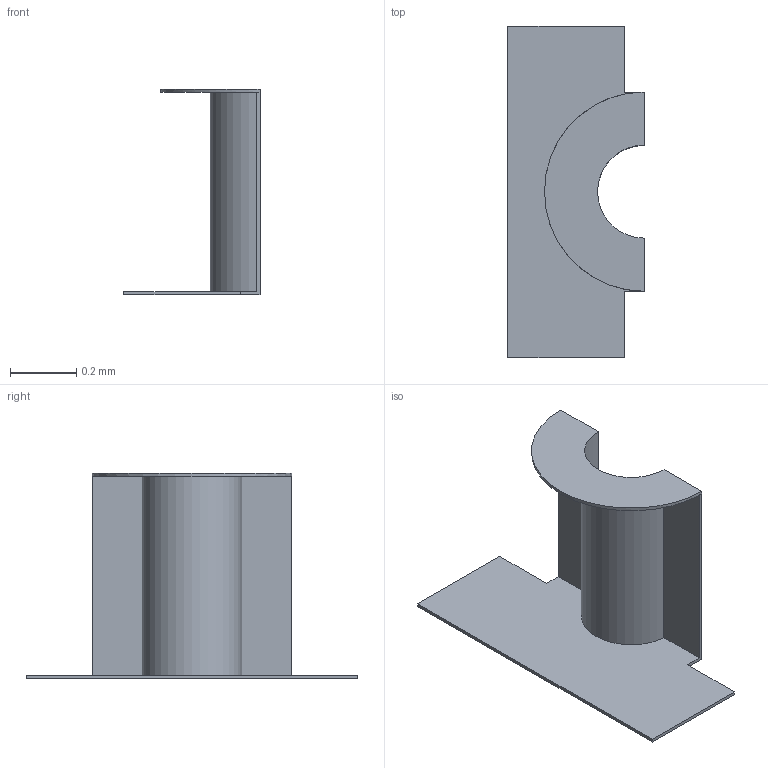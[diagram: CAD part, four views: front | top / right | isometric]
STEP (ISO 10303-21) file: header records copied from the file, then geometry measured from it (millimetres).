
FILE_DESCRIPTION(/* description */ ('STEP AP242 Edition 2','CAx-IF Rec.Pracs.---Representation and Presentation of Product Manufacturing Information (PMI)---4.0---2014-10-13','CAx-IF Rec.Pracs.---3D Tessellated Geometry---0.4---2014-09-14','2;1','CAx-IF Rec.Pracs.---User Defined Attributes---1.5---2016-08-15'),/* implementation_level */ '2;1');
FILE_NAME(/* name */ 'Assembly 1 - LED0805-RD_RED~LED0805-RD_RED~nxQB (1)',/* time_stamp */ '2026-04-02T09:55:15Z',/* author */ (''),/* organization */ (''),/* preprocessor_version */ 'ST-DEVELOPER v20',/* originating_system */ 'ONSHAPE BY PTC INC, 1.212',/* authorisation */ ' ');
FILE_SCHEMA (('AP242_MANAGED_MODEL_BASED_3D_ENGINEERING_MIM_LF { 1 0 10303 442 3 1 4 }'));
Length unit declared in the file: metre
Products named in the file (1): LED0805-RD_RED~LED0805-RD_RED~nxQB
Bounding box: 0.41 x 1 x 0.62 mm (x, y, z)
Volume: 0 mm3; surface area: 1.9 mm2
Topology: 1 solids, 1 shells, 20 faces, 50 edges, 32 vertices
Faces by surface type: plane 17, cylinder 3
Entity records: 732 total; most frequent: CARTESIAN_POINT 103, ORIENTED_EDGE 100, DIRECTION 100, EDGE_CURVE 50, LINE 42, VECTOR 42, VERTEX_POINT 32, AXIS2_PLACEMENT_3D 29
